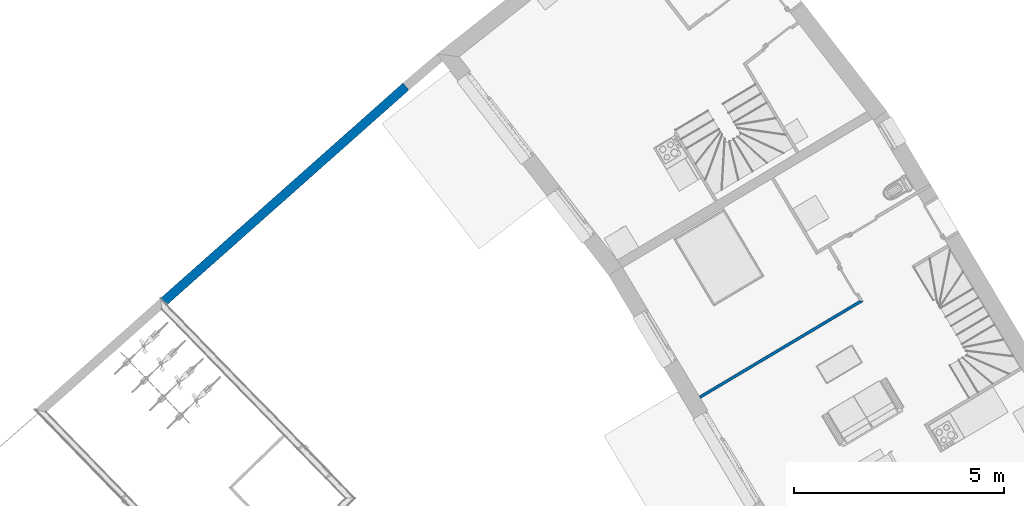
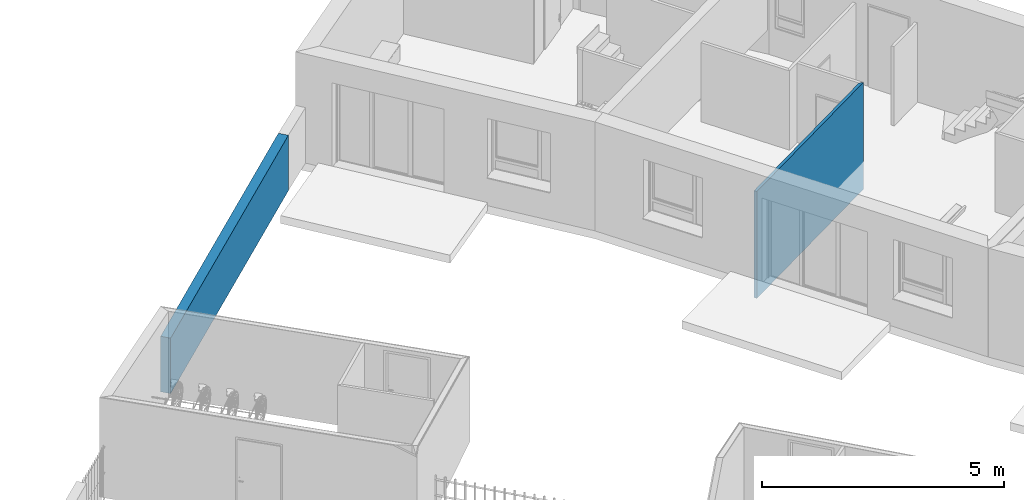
# One storey, part 40 of 195: 2 walls.
"""IFC2X3 building model written with IfcOpenShell, lengths in metres."""

from ifc_helpers import new_model, entity, si_unit, converted_unit, derived_unit, money_unit, direction, frame, origin_with_axes, place, context, subcontext, project, spatial, polyline, outline, extrude, material, layer, layer_set, layer_usage, type_object, element, save


model = new_model("IFC2X3")

# Units and contexts
model_context = context("Model", 3, precision=1e-05, world=origin_with_axes(), true_north=direction((0.0, 1.0)))
body_context = subcontext(model_context, "Body", "Model", "MODEL_VIEW")
ifc_project = project(units=[si_unit("LENGTHUNIT", "METRE"), si_unit("AREAUNIT", "SQUARE_METRE"), si_unit("VOLUMEUNIT", "CUBIC_METRE"), converted_unit("PLANEANGLEUNIT", "DEGREE", entity("IfcPlaneAngleMeasure", 0.0174532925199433), si_unit("PLANEANGLEUNIT", "RADIAN"), dimensions=[0, 0, 0, 0, 0, 0, 0]), money_unit("CHF"), converted_unit("TIMEUNIT", "Year", entity("IfcTimeMeasure", 31557600.0), si_unit("TIMEUNIT", "SECOND"), dimensions=[0, 0, 1, 0, 0, 0, 0]), si_unit("MASSUNIT", "GRAM", prefix="KILO"), si_unit("THERMODYNAMICTEMPERATUREUNIT", "DEGREE_CELSIUS"), si_unit("LUMINOUSINTENSITYUNIT", "LUMEN"), si_unit("ENERGYUNIT", "JOULE", prefix="MEGA"), derived_unit("THERMALCONDUCTANCEUNIT", [(si_unit("POWERUNIT", "WATT"), 1), (si_unit("LENGTHUNIT", "METRE"), -1), (si_unit("THERMODYNAMICTEMPERATUREUNIT", "KELVIN"), -1)]), derived_unit("SPECIFICHEATCAPACITYUNIT", [(si_unit("ENERGYUNIT", "JOULE"), 1), (si_unit("MASSUNIT", "GRAM", prefix="KILO"), -1), (si_unit("THERMODYNAMICTEMPERATUREUNIT", "KELVIN"), -1)]), derived_unit("MASSDENSITYUNIT", [(si_unit("MASSUNIT", "GRAM", prefix="KILO"), 1), (si_unit("VOLUMEUNIT", "CUBIC_METRE"), -1)])], contexts=[model_context])

# Site, building, storey
site_placement = place(None, origin_with_axes())
site = spatial("IfcSite", under=ifc_project, at=site_placement, Name="Site", CompositionType="ELEMENT")
building_placement = place(site_placement, origin_with_axes())
building = spatial("IfcBuilding", under=site, at=building_placement, Name="Bâtiment", CompositionType="ELEMENT")
storey_placement = place(building_placement, origin_with_axes())
storey = spatial("IfcBuildingStorey", under=building, at=storey_placement, Name="rdc", CompositionType="ELEMENT", Elevation=0.0)

# Walls
ifc_material_1 = material(Name="Hachure solide 268963992")
ifc_layer_1 = layer(ifc_material_1, 0.07, ventilated="UNKNOWN")
ifc_layer_set_1 = layer_set([ifc_layer_1], Name="Cloison 70 0826278243")
ifc_layer_usage_1 = layer_usage(ifc_layer_set_1, "AXIS2", "POSITIVE", 0.0)
wall_type_1 = type_object("IfcWallType", Name="Cloison 70 0826278243 70", PredefinedType="NOTDEFINED")
wall_1_placement = place(storey_placement, frame((9540.303550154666, -1050.322925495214, 57.0), z_axis=(0.0, 0.0, 1.0), x_axis=(0.8590868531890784, 0.5118298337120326, 0.0)))
element("IfcWallStandardCase", 1, at=wall_1_placement, inside=storey, type_object=wall_type_1, material=ifc_layer_usage_1, Name="Mur-149", context=body_context, shape_type="SweptSolid", body=[
    extrude(outline(polyline([(0.3799999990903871, 0.0), (4.893844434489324, 0.0), (4.82384443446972, 0.07000000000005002), (0.3799999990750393, 0.06999999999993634), (0.3799999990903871, 0.0)])), origin_with_axes(), (0.0, 0.0, 1.0), 2.7),
])
ifc_material_2 = material(Name="Empty Fill 3000033799")
ifc_layer_2 = layer(ifc_material_2, 0.22, ventilated="UNKNOWN")
ifc_layer_set_2 = layer_set([ifc_layer_2], Name="acrotère 22")
ifc_layer_usage_2 = layer_usage(ifc_layer_set_2, "AXIS2", "POSITIVE", 0.0)
wall_type_2 = type_object("IfcWallType", Name="acrotère 22 220", PredefinedType="NOTDEFINED")
wall_2_placement = place(storey_placement, frame((9533.538707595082, -1042.616590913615, 57.7), z_axis=(0.0, 0.0, 1.0), x_axis=(-0.7477871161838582, -0.6639385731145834, 0.0)))
element("IfcWallStandardCase", 2, at=wall_2_placement, inside=storey, type_object=wall_type_2, material=ifc_layer_usage_2, Name="Mur-108", context=body_context, shape_type="SweptSolid", body=[
    extrude(outline(polyline([(0.0, 0.0), (7.717640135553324, 0.0), (7.717640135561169, 0.2200000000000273), (0.002201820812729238, 0.220000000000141), (0.0, 0.0)])), origin_with_axes(), (0.0, 0.0, 1.0), 1.4),
])

save(model, "model.ifc")
